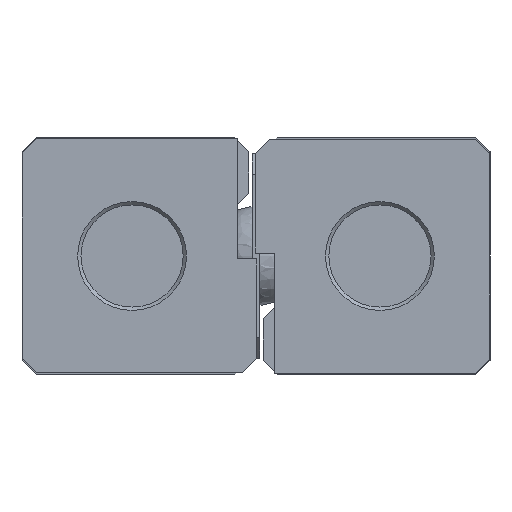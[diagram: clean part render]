
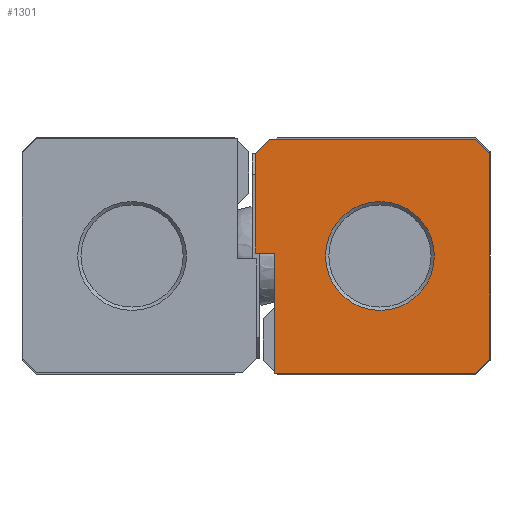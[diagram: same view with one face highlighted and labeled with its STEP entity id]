
A CAD part, left-side view. The second image highlights one B-rep face of the part: STEP entity #1301.
In plain terms, the highlighted planar face has unit normal (-1, 0, 0).
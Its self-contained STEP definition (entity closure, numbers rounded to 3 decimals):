
#70=CIRCLE('',#1418,8.25);
#244=ORIENTED_EDGE('',*,*,#516,.T.);
#245=ORIENTED_EDGE('',*,*,#498,.F.);
#246=ORIENTED_EDGE('',*,*,#515,.F.);
#247=ORIENTED_EDGE('',*,*,#513,.F.);
#248=ORIENTED_EDGE('',*,*,#511,.F.);
#249=ORIENTED_EDGE('',*,*,#509,.F.);
#250=ORIENTED_EDGE('',*,*,#507,.F.);
#251=ORIENTED_EDGE('',*,*,#505,.F.);
#252=ORIENTED_EDGE('',*,*,#503,.F.);
#253=ORIENTED_EDGE('',*,*,#501,.F.);
#498=EDGE_CURVE('',#646,#647,#777,.T.);
#501=EDGE_CURVE('',#647,#648,#780,.T.);
#503=EDGE_CURVE('',#648,#649,#782,.T.);
#505=EDGE_CURVE('',#649,#650,#784,.T.);
#507=EDGE_CURVE('',#650,#651,#786,.T.);
#509=EDGE_CURVE('',#651,#652,#788,.T.);
#511=EDGE_CURVE('',#652,#653,#790,.T.);
#513=EDGE_CURVE('',#653,#654,#792,.T.);
#515=EDGE_CURVE('',#654,#646,#794,.T.);
#516=EDGE_CURVE('',#655,#655,#70,.T.);
#646=VERTEX_POINT('',#2024);
#647=VERTEX_POINT('',#2025);
#648=VERTEX_POINT('',#2030);
#649=VERTEX_POINT('',#2034);
#650=VERTEX_POINT('',#2038);
#651=VERTEX_POINT('',#2042);
#652=VERTEX_POINT('',#2046);
#653=VERTEX_POINT('',#2050);
#654=VERTEX_POINT('',#2054);
#655=VERTEX_POINT('',#2060);
#777=LINE('',#2023,#904);
#780=LINE('',#2029,#907);
#782=LINE('',#2033,#909);
#784=LINE('',#2037,#911);
#786=LINE('',#2041,#913);
#788=LINE('',#2045,#915);
#790=LINE('',#2049,#917);
#792=LINE('',#2053,#919);
#794=LINE('',#2057,#921);
#904=VECTOR('',#1620,1000.);
#907=VECTOR('',#1625,1000.);
#909=VECTOR('',#1629,1000.);
#911=VECTOR('',#1633,1000.);
#913=VECTOR('',#1637,1000.);
#915=VECTOR('',#1641,1000.);
#917=VECTOR('',#1645,1000.);
#919=VECTOR('',#1649,1000.);
#921=VECTOR('',#1653,1000.);
#1003=EDGE_LOOP('',(#244));
#1004=EDGE_LOOP('',(#245,#246,#247,#248,#249,#250,#251,#252,#253));
#1128=FACE_BOUND('',#1003,.T.);
#1129=FACE_BOUND('',#1004,.T.);
#1247=PLANE('',#1417);
#1301=ADVANCED_FACE('',(#1128,#1129),#1247,.F.);
#1417=AXIS2_PLACEMENT_3D('',#2058,#1654,#1655);
#1418=AXIS2_PLACEMENT_3D('',#2059,#1656,#1657);
#1620=DIRECTION('',(0.,-1.,0.));
#1625=DIRECTION('',(0.,-0.707,-0.707));
#1629=DIRECTION('',(0.,0.,-1.));
#1633=DIRECTION('',(0.,0.707,-0.707));
#1637=DIRECTION('',(0.,1.,0.));
#1641=DIRECTION('',(0.,0.,1.));
#1645=DIRECTION('',(0.,1.,0.));
#1649=DIRECTION('',(0.,0.,1.));
#1653=DIRECTION('',(0.,-0.707,0.707));
#1654=DIRECTION('',(1.,0.,0.));
#1655=DIRECTION('',(0.,0.,-1.));
#1656=DIRECTION('',(1.,0.,0.));
#1657=DIRECTION('',(0.,0.,-1.));
#2023=CARTESIAN_POINT('',(0.,-1.98,17.7));
#2024=CARTESIAN_POINT('',(0.,-1.98,17.7));
#2025=CARTESIAN_POINT('',(0.,-33.32,17.7));
#2029=CARTESIAN_POINT('',(0.,-33.32,17.7));
#2030=CARTESIAN_POINT('',(0.,-35.45,15.57));
#2033=CARTESIAN_POINT('',(0.,-35.45,15.57));
#2034=CARTESIAN_POINT('',(0.,-35.45,-15.67));
#2037=CARTESIAN_POINT('',(0.,-35.45,-15.67));
#2038=CARTESIAN_POINT('',(0.,-33.32,-17.8));
#2041=CARTESIAN_POINT('',(0.,-33.32,-17.8));
#2042=CARTESIAN_POINT('',(0.,-2.85,-17.8));
#2045=CARTESIAN_POINT('',(0.,-2.85,-17.8));
#2046=CARTESIAN_POINT('',(0.,-2.85,0.45));
#2049=CARTESIAN_POINT('',(0.,-2.85,0.45));
#2050=CARTESIAN_POINT('',(0.,0.15,0.45));
#2053=CARTESIAN_POINT('',(0.,0.15,0.45));
#2054=CARTESIAN_POINT('',(0.,0.15,15.57));
#2057=CARTESIAN_POINT('',(0.,0.15,15.57));
#2058=CARTESIAN_POINT('',(0.,0.,0.));
#2059=CARTESIAN_POINT('',(0.,-18.8,0.));
#2060=CARTESIAN_POINT('',(0.,-18.8,-8.25));
